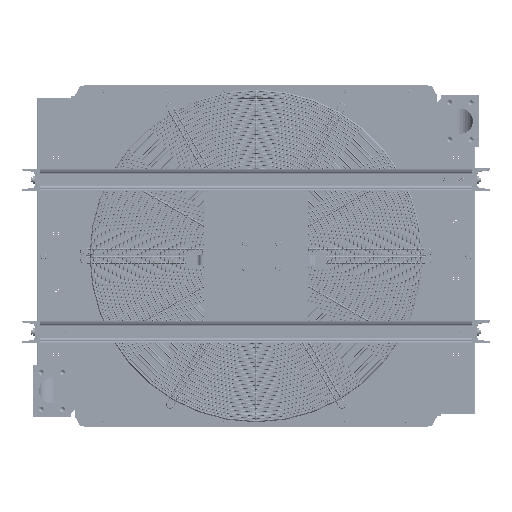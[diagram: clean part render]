
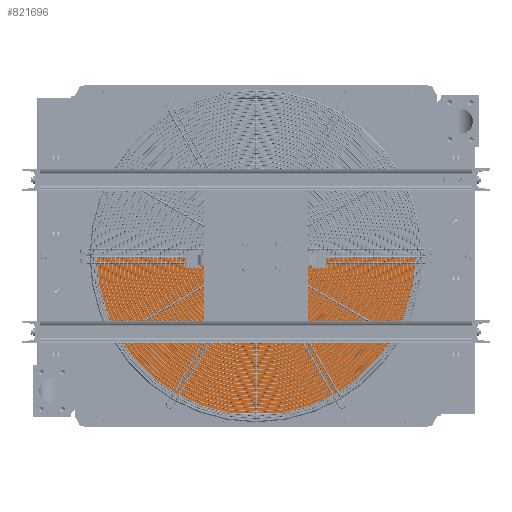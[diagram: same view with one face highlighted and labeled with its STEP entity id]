
A CAD part, top view. The second image highlights one B-rep face of the part: STEP entity #821696.
In plain terms, the highlighted planar face has unit normal (0, 0, 1).
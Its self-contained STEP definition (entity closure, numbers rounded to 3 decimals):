
#819366=CARTESIAN_POINT(' ',(519.247,448.33,56.5));
#819367=VERTEX_POINT(' ',#819366);
#819721=CARTESIAN_POINT(' ',(-519.247,448.33,56.5));
#819722=VERTEX_POINT(' ',#819721);
#819736=CARTESIAN_POINT(' ',(519.247,448.33,56.5));
#819741=DIRECTION(' ',(-1.,0.,0.));
#819746=VECTOR(' ',#819741,1.);
#819751=LINE(' ',#819736,#819746);
#819756=EDGE_CURVE(' ',#819367,#819722,#819751,.T.);
#819891=CARTESIAN_POINT(' ',(519.247,448.33,56.5));
#819896=DIRECTION(' ',(0.,-1.,0.));
#819901=VECTOR(' ',#819896,1.);
#819906=LINE(' ',#819891,#819901);
#819911=CARTESIAN_POINT(' ',(519.247,0.,56.5));
#819912=VERTEX_POINT(' ',#819911);
#819916=EDGE_CURVE(' ',#819367,#819912,#819906,.T.);
#821481=CARTESIAN_POINT(' ',(-519.247,448.33,56.5));
#821486=DIRECTION(' ',(0.,-1.,0.));
#821491=VECTOR(' ',#821486,1.);
#821496=LINE(' ',#821481,#821491);
#821501=CARTESIAN_POINT(' ',(-519.247,0.,56.5));
#821502=VERTEX_POINT(' ',#821501);
#821506=EDGE_CURVE(' ',#819722,#821502,#821496,.T.);
#821616=CARTESIAN_POINT(' ',(-519.247,0.,56.5));
#821621=DIRECTION(' ',(0.,0.,1.));
#821626=DIRECTION(' ',(1.,0.,0.));
#821631=AXIS2_PLACEMENT_3D(' ',#821616,#821621,#821626);
#821636=PLANE(' ',#821631);
#821641=ORIENTED_EDGE(' ',*,*,#819916,.F.);
#821646=ORIENTED_EDGE(' ',*,*,#819756,.T.);
#821651=ORIENTED_EDGE(' ',*,*,#821506,.T.);
#821656=CARTESIAN_POINT(' ',(519.247,0.,56.5));
#821661=DIRECTION(' ',(-1.,0.,0.));
#821666=VECTOR(' ',#821661,1.);
#821671=LINE(' ',#821656,#821666);
#821676=EDGE_CURVE(' ',#819912,#821502,#821671,.T.);
#821681=ORIENTED_EDGE(' ',*,*,#821676,.F.);
#821686=EDGE_LOOP(' ',(#821641,#821646,#821651,#821681));
#821691=FACE_OUTER_BOUND(' ',#821686,.T.);
#821696=ADVANCED_FACE(' ',(#821691),#821636,.T.);
